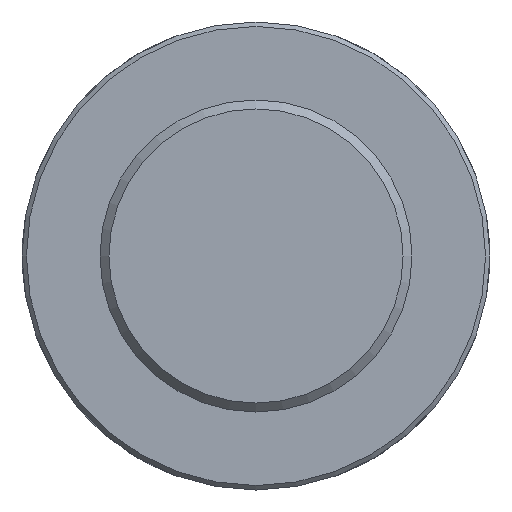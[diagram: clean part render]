
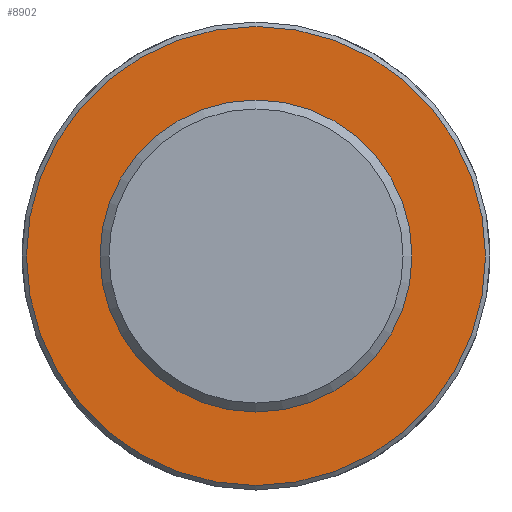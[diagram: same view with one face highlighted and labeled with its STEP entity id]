
A CAD part, front view. The second image highlights one B-rep face of the part: STEP entity #8902.
In plain terms, the highlighted planar face has unit normal (0, -1, 0) as drawn and (0, 1, 0) by its records, which use the part's own axes.
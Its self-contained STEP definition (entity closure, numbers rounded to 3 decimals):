
#73=CIRCLE('',#9232,103.);
#1365=FACE_OUTER_BOUND('',#1913,.T.);
#1913=EDGE_LOOP('',(#8174));
#4317=VERTEX_POINT('',#16370);
#5606=EDGE_CURVE('',#4317,#4317,#73,.T.);
#8174=ORIENTED_EDGE('',*,*,#5606,.F.);
#8425=PLANE('',#9235);
#8902=ADVANCED_FACE('',(#1365),#8425,.T.);
#9232=AXIS2_PLACEMENT_3D('',#16371,#10519,#10520);
#9235=AXIS2_PLACEMENT_3D('',#16609,#10525,#10526);
#10519=DIRECTION('center_axis',(0.,-1.,0.));
#10520=DIRECTION('ref_axis',(1.,0.,0.));
#10525=DIRECTION('center_axis',(0.,1.,0.));
#10526=DIRECTION('ref_axis',(0.,0.,1.));
#16370=CARTESIAN_POINT('',(-103.,95.,0.));
#16371=CARTESIAN_POINT('Origin',(0.,95.,0.));
#16609=CARTESIAN_POINT('Origin',(0.,95.,0.));
